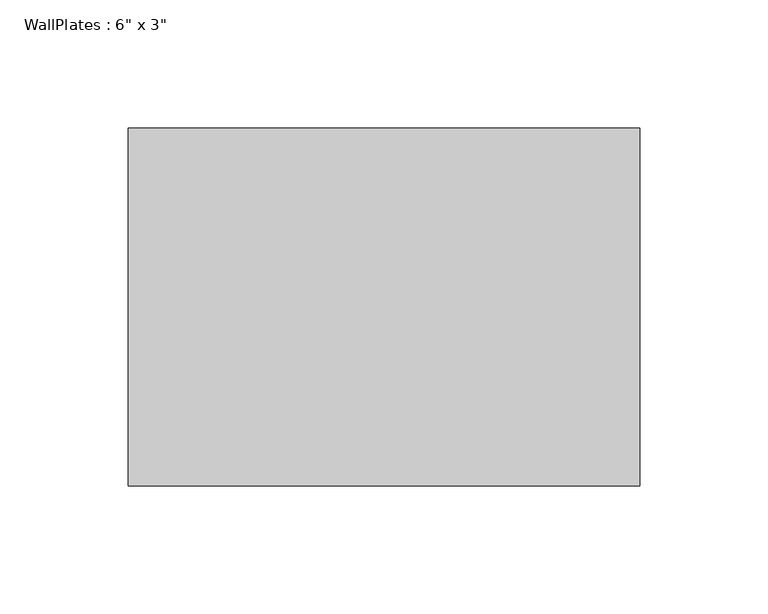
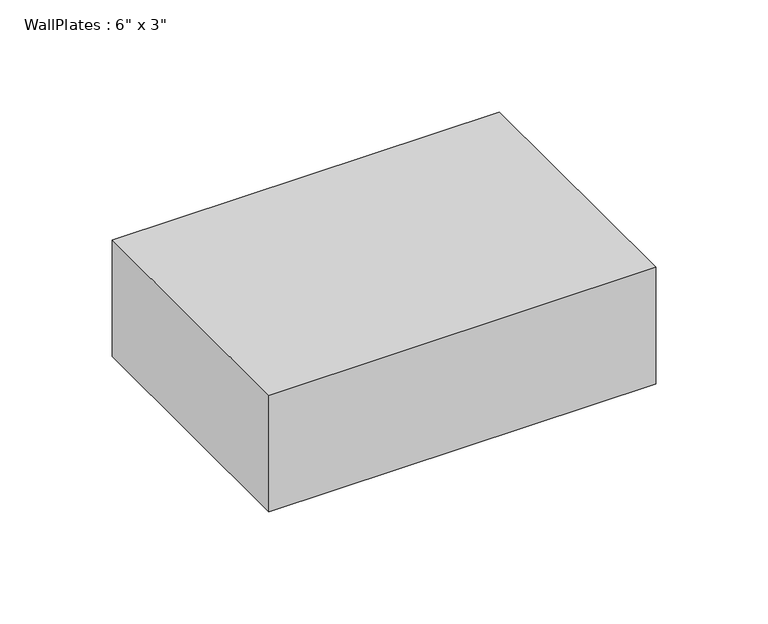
"""IFC4 building model written with IfcOpenShell, lengths in millimetres: beam geometry."""

from ifc_helpers import new_model, si_unit, frame, origin, place, context, project, spatial, polyline, outline, extrude, source, transform, mapped, element, save


def beam_d6eb6cf6(model_context):
    return source(origin(), model_context, "Body", "SweptSolid", [
        extrude(outline(polyline([(-99.8426891, -69.85), (-99.8426891, 69.85), (99.8426891, 69.85), (99.8426891, -69.85), (-99.8426891, -69.85)])), frame((0.0, 0.0, -31.75), z_axis=(0.0, 0.0, 1.0), x_axis=(1.0, 0.0, 0.0)), (0.0, 0.0, 1.0), 63.5),
    ])


if __name__ == "__main__":
    model = new_model("IFC4")
    model_context = context("Model", 3, world=origin())
    ifc_project = project(units=[si_unit("LENGTHUNIT", "METRE", prefix="MILLI")], contexts=[model_context])
    site = spatial("IfcSite", under=ifc_project)
    building = spatial("IfcBuilding", under=site)
    placement = place(None, origin())
    beam_shape = beam_d6eb6cf6(model_context)
    element("IfcBeam", 1, ObjectType="WallPlates : 6\" x 3\"", at=placement, inside=building, context=model_context, shape_type="MappedRepresentation", body=[
        mapped(beam_shape, transform((0.0, 0.0, 0.0), x_axis=(1.0, 0.0, 0.0), y_axis=(0.0, 1.0, 0.0), z_axis=(0.0, 0.0, 1.0))),
    ])
    save(model, "model.ifc")
